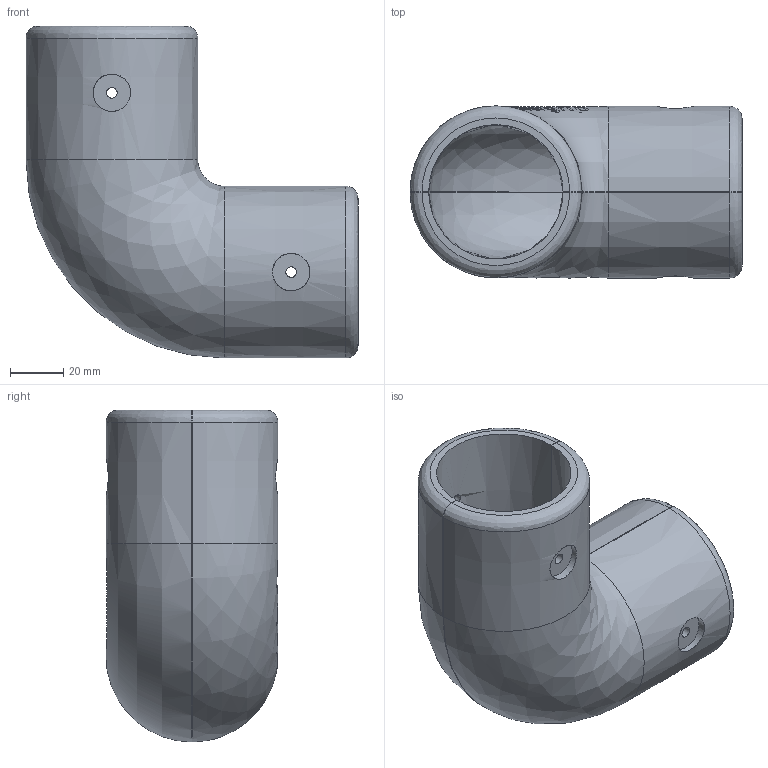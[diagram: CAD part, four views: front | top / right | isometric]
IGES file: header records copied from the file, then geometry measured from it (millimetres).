
Start section: SolidWorks IGES file using analytic representation for surfaces
Global section: file name: D:\Praca\Zlecenia prywatne\Konrad Izdebski Evergrip\KIE_018 Elementy z³¹czne\Dokumentacja\IGES\KIE_018.A11 Kolanko 90.IGS; native system: SolidWorks 2023; preprocessor: SolidWorks 2023; author: patry; date: 250122.193735; units: millimetre
Bounding box: 124.3 x 64.3 x 124.3 mm (x, y, z)
Surface area: 66603 mm2 (no closed solid volume)
Topology: 0 solids, 0 shells, 49 faces, 471 edges, 463 vertices
Faces by surface type: revolution 37, bspline 12
